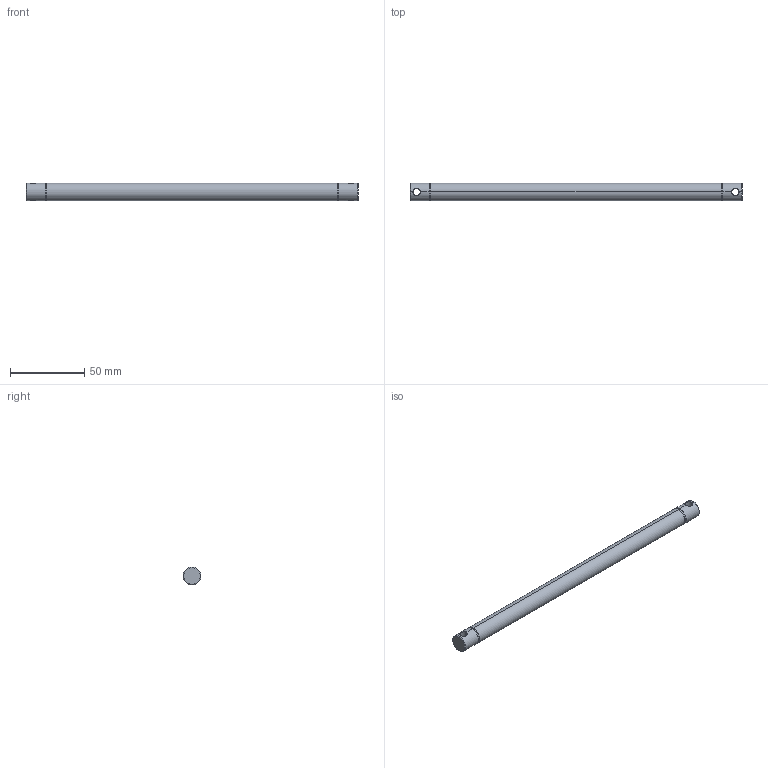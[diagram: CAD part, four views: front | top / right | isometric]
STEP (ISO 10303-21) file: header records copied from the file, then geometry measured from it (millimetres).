
FILE_DESCRIPTION (( 'STEP AP214' ), '1' );
FILE_NAME ('084.030.178.STEP', '2021-02-05T15:46:51', ( '' ), ( '' ), 'SwSTEP 2.0', 'SolidWorks 2018', '' );
FILE_SCHEMA (( 'AUTOMOTIVE_DESIGN' ));
Length unit declared in the file: millimetre
Products named in the file (1): 084.030.178
Bounding box: 224 x 12 x 12 mm (x, y, z)
Volume: 24843.6 mm3; surface area: 8961.2 mm2
Topology: 1 solids, 1 shells, 24 faces, 54 edges, 32 vertices
Faces by surface type: cylinder 14, plane 6, cone 4
Entity records: 976 total; most frequent: CARTESIAN_POINT 351, DIRECTION 120, ORIENTED_EDGE 108, EDGE_CURVE 54, AXIS2_PLACEMENT_3D 49, VERTEX_POINT 32, EDGE_LOOP 28, CIRCLE 24
